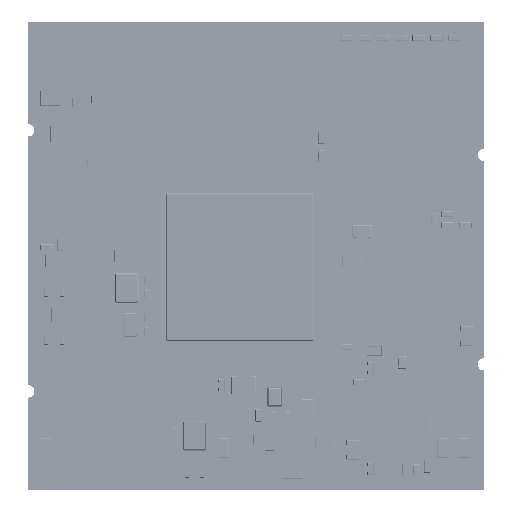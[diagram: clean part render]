
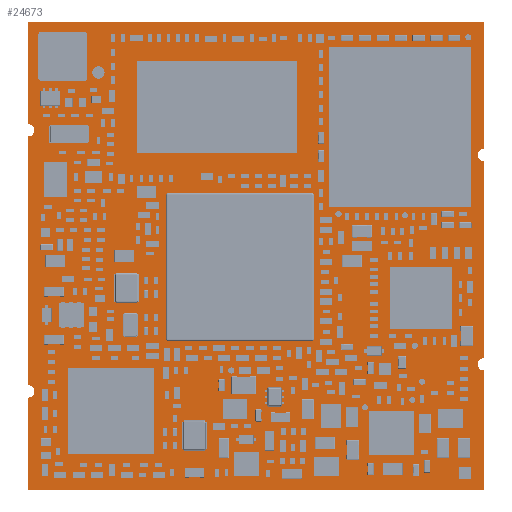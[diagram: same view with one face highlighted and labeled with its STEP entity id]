
A CAD part, top view. The second image highlights one B-rep face of the part: STEP entity #24673.
In plain terms, the highlighted planar face has unit normal (0, 0, 1).
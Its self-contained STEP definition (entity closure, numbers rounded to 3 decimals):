
#24673=ADVANCED_FACE('',(#47272),#47273,.T.);
#47272=FACE_OUTER_BOUND('',#72841,.T.);
#47273=PLANE('',#72842);
#72841=EDGE_LOOP('',(#107231,#107232,#107233,#107234,#107235,#107236,#107237,#107238,#107239,#107240,#107241,#107242));
#72842=AXIS2_PLACEMENT_3D('',#107243,#107244,#107245);
#107231=ORIENTED_EDGE('',*,*,#129215,.T.);
#107232=ORIENTED_EDGE('',*,*,#129217,.T.);
#107233=ORIENTED_EDGE('',*,*,#129218,.T.);
#107234=ORIENTED_EDGE('',*,*,#129219,.T.);
#107235=ORIENTED_EDGE('',*,*,#129220,.T.);
#107236=ORIENTED_EDGE('',*,*,#129221,.T.);
#107237=ORIENTED_EDGE('',*,*,#129222,.T.);
#107238=ORIENTED_EDGE('',*,*,#129223,.T.);
#107239=ORIENTED_EDGE('',*,*,#129224,.T.);
#107240=ORIENTED_EDGE('',*,*,#129225,.T.);
#107241=ORIENTED_EDGE('',*,*,#129226,.T.);
#107242=ORIENTED_EDGE('',*,*,#129227,.T.);
#107243=CARTESIAN_POINT('',(18.5,19.0,1.785));
#107244=DIRECTION('',(0.,0.,1.0));
#107245=DIRECTION('',(1.0,0.0,0.));
#129215=EDGE_CURVE('',#145448,#145452,#145454,.T.);
#129217=EDGE_CURVE('',#145452,#145456,#145457,.T.);
#129218=EDGE_CURVE('',#145456,#145458,#145459,.T.);
#129219=EDGE_CURVE('',#145458,#145460,#145461,.T.);
#129220=EDGE_CURVE('',#145460,#145462,#145463,.T.);
#129221=EDGE_CURVE('',#145462,#145464,#145465,.T.);
#129222=EDGE_CURVE('',#145464,#145466,#145467,.T.);
#129223=EDGE_CURVE('',#145466,#145468,#145469,.T.);
#129224=EDGE_CURVE('',#145468,#145470,#145471,.T.);
#129225=EDGE_CURVE('',#145470,#145472,#145473,.T.);
#129226=EDGE_CURVE('',#145472,#145474,#145475,.T.);
#129227=EDGE_CURVE('',#145474,#145448,#145476,.T.);
#145448=VERTEX_POINT('',#166547);
#145452=VERTEX_POINT('',#166552);
#145454=CIRCLE('',#166555,0.5);
#145456=VERTEX_POINT('',#166557);
#145457=LINE('',#166558,#166559);
#145458=VERTEX_POINT('',#166560);
#145459=LINE('',#166561,#166562);
#145460=VERTEX_POINT('',#166563);
#145461=LINE('',#166564,#166565);
#145462=VERTEX_POINT('',#166566);
#145463=CIRCLE('',#166567,0.5);
#145464=VERTEX_POINT('',#166568);
#145465=LINE('',#166569,#166570);
#145466=VERTEX_POINT('',#166571);
#145467=CIRCLE('',#166572,0.5);
#145468=VERTEX_POINT('',#166573);
#145469=LINE('',#166574,#166575);
#145470=VERTEX_POINT('',#166576);
#145471=LINE('',#166577,#166578);
#145472=VERTEX_POINT('',#166579);
#145473=LINE('',#166580,#166581);
#145474=VERTEX_POINT('',#166582);
#145475=CIRCLE('',#166583,0.5);
#145476=LINE('',#166584,#166585);
#166547=CARTESIAN_POINT('',(0.0,8.5,1.785));
#166552=CARTESIAN_POINT('',(0.,7.5,1.785));
#166555=AXIS2_PLACEMENT_3D('',#183228,#183229,#183230);
#166557=CARTESIAN_POINT('',(0.,0.,1.785));
#166558=CARTESIAN_POINT('',(0.,19.0,1.785));
#166559=VECTOR('',#183231,1.0);
#166560=CARTESIAN_POINT('',(37.0,0.,1.785));
#166561=CARTESIAN_POINT('',(18.5,0.,1.785));
#166562=VECTOR('',#183232,1.0);
#166563=CARTESIAN_POINT('',(37.0,9.7,1.785));
#166564=CARTESIAN_POINT('',(37.0,19.0,1.785));
#166565=VECTOR('',#183233,1.0);
#166566=CARTESIAN_POINT('',(37.0,10.7,1.785));
#166567=AXIS2_PLACEMENT_3D('',#183234,#183235,#183236);
#166568=CARTESIAN_POINT('',(37.0,26.7,1.785));
#166569=CARTESIAN_POINT('',(37.0,19.0,1.785));
#166570=VECTOR('',#183237,1.0);
#166571=CARTESIAN_POINT('',(37.0,27.7,1.785));
#166572=AXIS2_PLACEMENT_3D('',#183238,#183239,#183240);
#166573=CARTESIAN_POINT('',(37.0,38.0,1.785));
#166574=CARTESIAN_POINT('',(37.0,19.0,1.785));
#166575=VECTOR('',#183241,1.0);
#166576=CARTESIAN_POINT('',(0.,38.0,1.785));
#166577=CARTESIAN_POINT('',(18.5,38.0,1.785));
#166578=VECTOR('',#183242,1.0);
#166579=CARTESIAN_POINT('',(0.0,29.7,1.785));
#166580=CARTESIAN_POINT('',(0.,19.0,1.785));
#166581=VECTOR('',#183243,1.0);
#166582=CARTESIAN_POINT('',(0.,28.7,1.785));
#166583=AXIS2_PLACEMENT_3D('',#183244,#183245,#183246);
#166584=CARTESIAN_POINT('',(0.,19.0,1.785));
#166585=VECTOR('',#183247,1.0);
#183228=CARTESIAN_POINT('',(0.0,8.0,1.785));
#183229=DIRECTION('',(0.,0.,-1.0));
#183230=DIRECTION('',(0.,1.0,0.));
#183231=DIRECTION('',(0.0,-1.0,0.0));
#183232=DIRECTION('',(1.0,0.0,0.0));
#183233=DIRECTION('',(0.0,1.0,0.0));
#183234=CARTESIAN_POINT('',(37.0,10.2,1.785));
#183235=DIRECTION('',(0.,0.,-1.0));
#183236=DIRECTION('',(0.,1.0,0.));
#183237=DIRECTION('',(0.0,1.0,0.0));
#183238=CARTESIAN_POINT('',(37.0,27.2,1.785));
#183239=DIRECTION('',(0.,0.,-1.0));
#183240=DIRECTION('',(0.,1.0,0.));
#183241=DIRECTION('',(0.0,1.0,0.0));
#183242=DIRECTION('',(-1.0,0.0,0.0));
#183243=DIRECTION('',(0.0,-1.0,0.0));
#183244=CARTESIAN_POINT('',(0.0,29.2,1.785));
#183245=DIRECTION('',(0.,0.,-1.0));
#183246=DIRECTION('',(0.,1.0,0.));
#183247=DIRECTION('',(0.0,-1.0,0.0));
